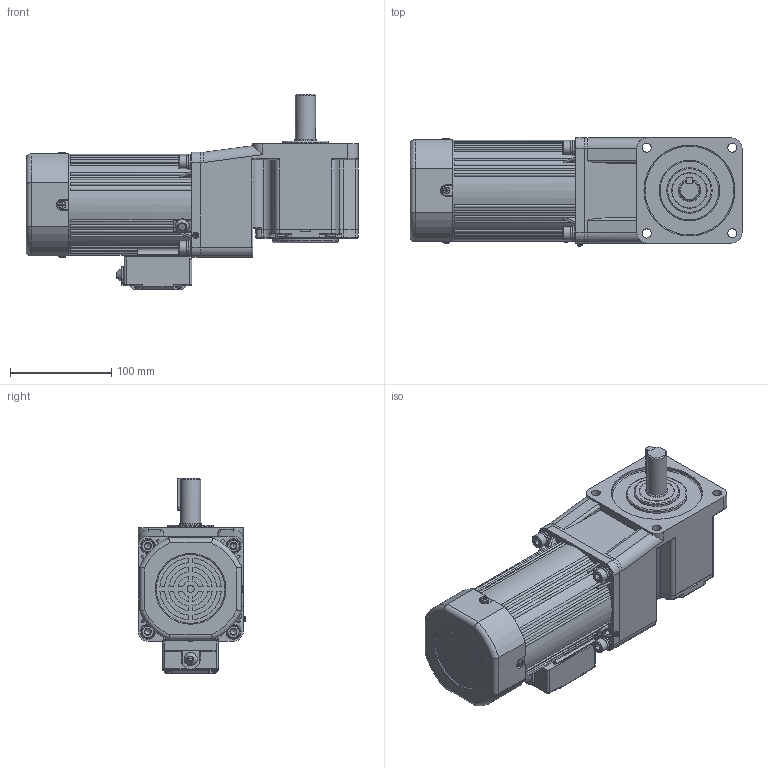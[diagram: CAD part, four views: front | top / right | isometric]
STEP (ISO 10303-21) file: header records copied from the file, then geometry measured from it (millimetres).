
FILE_DESCRIPTION(/* description */ (''),/* implementation_level */ '2;1');
FILE_NAME(/* name */ '100+直角中实-调速风叶-160-250W 新版长款接线盒.stp',/* time_stamp */ '2025-04-07T20:02:33+08:00',/* author */ (''),/* organization */ (''),/* preprocessor_version */ 'ST-DEVELOPER v18.102',/* originating_system */ 'SIEMENS PLM Software NX 2027',/* authorisation */ '');
FILE_SCHEMA (('AP203_CONFIGURATION_CONTROLLED_3D_DESIGN_OF_MECHANICAL_PARTS_AND_ASSEMBLIES_MIM_LF { 1 0 10303 403 2 1 2}'));
Length unit declared in the file: millimetre
Products named in the file (1): 100+直角中实-调速风叶-160
-250W 新版_stp_objects
Bounding box: 328.5 x 106.83 x 193.5 mm (x, y, z)
Volume: 2930844.7 mm3; surface area: 247520.9 mm2
Topology: 17 solids, 17 shells, 1655 faces, 4219 edges, 2666 vertices
Faces by surface type: plane 794, cylinder 536, bspline 110, torus 109, cone 72, sphere 34
Full cylindrical faces by diameter (mm): 2.2 x2, 2.6 x1, 2.9 x4, 3.2 x1, 3.5 x2, 4.2 x1, 4.55 x1, 4.8 x1, 5.1 x1, 5.15 x1, 5.6 x4, 6 x11, 6.8 x8, 7 x2, 7.5 x1, 7.76 x4, 8 x1, 8.4 x4, 9 x8, 9.5 x4, 10 x2, 13 x4, 14 x4, 15 x4, 15.5 x1, 19 x1, 20 x1, 22 x1, 30 x1, 35 x1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
Entity records: 50321 total; most frequent: CARTESIAN_POINT 11509, DIRECTION 7928, ORIENTED_EDGE 7912, EDGE_CURVE 3956, AXIS2_PLACEMENT_3D 3004, VERTEX_POINT 2598, EDGE_LOOP 1958, LINE 1920
